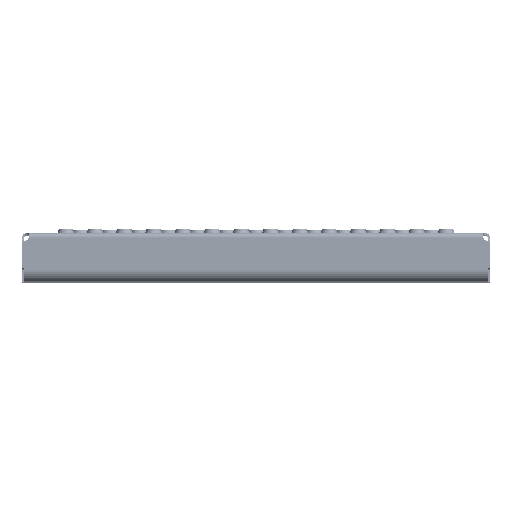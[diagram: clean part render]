
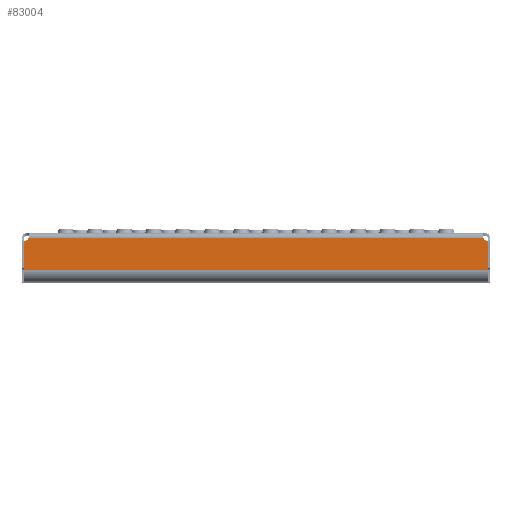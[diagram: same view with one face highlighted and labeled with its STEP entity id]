
A CAD part, top view. The second image highlights one B-rep face of the part: STEP entity #83004.
In plain terms, the highlighted planar face has unit normal (0, 0, 1).
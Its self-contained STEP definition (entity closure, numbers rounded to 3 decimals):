
#5400 = CARTESIAN_POINT ( 'NONE',  ( 197.99, -7.185, 100. ) ) ;
#7315 = CARTESIAN_POINT ( 'NONE',  ( 194.302, -4., 100. ) ) ;
#10596 = EDGE_CURVE ( 'NONE', #72500, #25835, #66168, .T. ) ;
#13147 = DIRECTION ( 'NONE',  ( 0., 1., 0. ) ) ;
#18133 = VECTOR ( 'NONE', #49943, 1000. ) ;
#21349 = CIRCLE ( 'NONE', #55467, 5. ) ;
#22159 = VERTEX_POINT ( 'NONE', #84819 ) ;
#24082 = AXIS2_PLACEMENT_3D ( 'NONE', #79417, #120124, #30625 ) ;
#24236 = AXIS2_PLACEMENT_3D ( 'NONE', #90404, #130509, #31640 ) ;
#25835 = VERTEX_POINT ( 'NONE', #42797 ) ;
#29038 = EDGE_CURVE ( 'NONE', #22159, #31089, #128072, .T. ) ;
#30625 = DIRECTION ( 'NONE',  ( 0., -1., 0. ) ) ;
#31089 = VERTEX_POINT ( 'NONE', #7315 ) ;
#31640 = DIRECTION ( 'NONE',  ( 0., -1., 0. ) ) ;
#31802 = VECTOR ( 'NONE', #50571, 1000. ) ;
#32415 = VERTEX_POINT ( 'NONE', #108614 ) ;
#34167 = EDGE_CURVE ( 'NONE', #126510, #31089, #21349, .T. ) ;
#38623 = PLANE ( 'NONE',  #24082 ) ;
#42044 = ORIENTED_EDGE ( 'NONE', *, *, #95603, .T. ) ;
#42797 = CARTESIAN_POINT ( 'NONE',  ( 197.99, -31.998, 100. ) ) ;
#44497 = EDGE_CURVE ( 'NONE', #25835, #126510, #63253, .T. ) ;
#45887 = DIRECTION ( 'NONE',  ( 0., -1., 0. ) ) ;
#46697 = FACE_OUTER_BOUND ( 'NONE', #79174, .T. ) ;
#49943 = DIRECTION ( 'NONE',  ( 1., 0., 0. ) ) ;
#50571 = DIRECTION ( 'NONE',  ( 0., -1., 0. ) ) ;
#52980 = CARTESIAN_POINT ( 'NONE',  ( -197.99, -31.998, 100. ) ) ;
#55467 = AXIS2_PLACEMENT_3D ( 'NONE', #106667, #127994, #45887 ) ;
#60444 = ORIENTED_EDGE ( 'NONE', *, *, #44497, .T. ) ;
#62190 = ORIENTED_EDGE ( 'NONE', *, *, #63372, .T. ) ;
#63253 = LINE ( 'NONE', #104643, #63842 ) ;
#63372 = EDGE_CURVE ( 'NONE', #22159, #32415, #101016, .T. ) ;
#63842 = VECTOR ( 'NONE', #13147, 1000. ) ;
#66168 = LINE ( 'NONE', #100671, #18133 ) ;
#67161 = VECTOR ( 'NONE', #128747, 1000. ) ;
#71321 = LINE ( 'NONE', #112601, #31802 ) ;
#72500 = VERTEX_POINT ( 'NONE', #52980 ) ;
#79174 = EDGE_LOOP ( 'NONE', ( #129485, #60444, #87186, #124579, #62190, #42044 ) ) ;
#79417 = CARTESIAN_POINT ( 'NONE',  ( -199., 195.712, 100. ) ) ;
#83004 = ADVANCED_FACE ( 'NONE', ( #46697 ), #38623, .T. ) ;
#84819 = CARTESIAN_POINT ( 'NONE',  ( -194.302, -4., 100. ) ) ;
#87186 = ORIENTED_EDGE ( 'NONE', *, *, #34167, .T. ) ;
#90404 = CARTESIAN_POINT ( 'NONE',  ( -199., -2.288, 100. ) ) ;
#95603 = EDGE_CURVE ( 'NONE', #32415, #72500, #71321, .T. ) ;
#100671 = CARTESIAN_POINT ( 'NONE',  ( -197.99, -31.998, 100. ) ) ;
#101016 = CIRCLE ( 'NONE', #24236, 5. ) ;
#104643 = CARTESIAN_POINT ( 'NONE',  ( 197.99, -7.185, 100. ) ) ;
#106667 = CARTESIAN_POINT ( 'NONE',  ( 199., -2.288, 100. ) ) ;
#108614 = CARTESIAN_POINT ( 'NONE',  ( -197.99, -7.185, 100. ) ) ;
#112601 = CARTESIAN_POINT ( 'NONE',  ( -197.99, -7.185, 100. ) ) ;
#118076 = CARTESIAN_POINT ( 'NONE',  ( -199., -4., 100. ) ) ;
#120124 = DIRECTION ( 'NONE',  ( 0., 0., 1. ) ) ;
#124579 = ORIENTED_EDGE ( 'NONE', *, *, #29038, .F. ) ;
#126510 = VERTEX_POINT ( 'NONE', #5400 ) ;
#127994 = DIRECTION ( 'NONE',  ( 0., 0., -1. ) ) ;
#128072 = LINE ( 'NONE', #118076, #67161 ) ;
#128747 = DIRECTION ( 'NONE',  ( 1., 0., 0. ) ) ;
#129485 = ORIENTED_EDGE ( 'NONE', *, *, #10596, .T. ) ;
#130509 = DIRECTION ( 'NONE',  ( 0., 0., -1. ) ) ;
